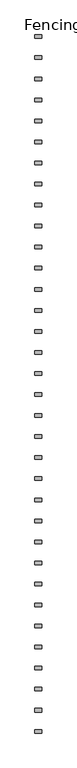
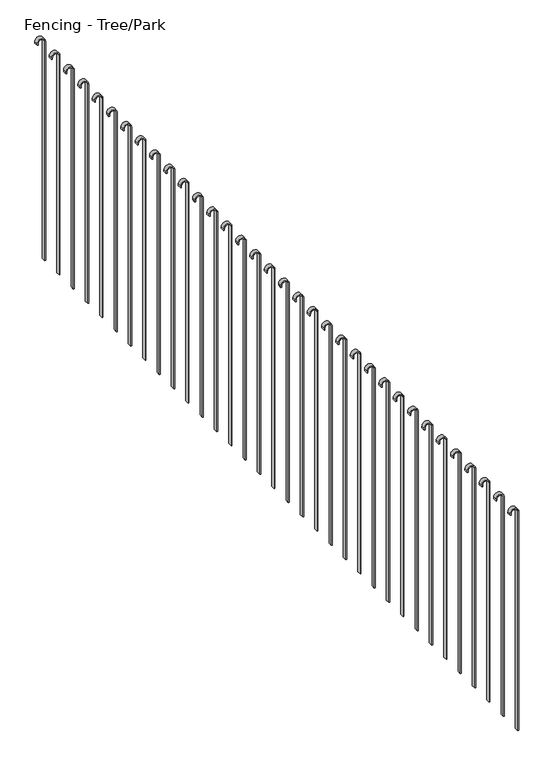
"""IFC4 building model written with IfcOpenShell, lengths in millimetres: railing geometry, Fencing - Tree/Park."""

import ifcopenshell
import ifcopenshell.guid

model = None  # the IFC model being written
_history = None  # IfcOwnerHistory: only IFC2X3 demands one
_inside = {}  # id of a spatial element -> (the spatial element, [elements in it])
_under = {}  # id of a project, library or spatial element -> (it, [spatial elements below it])
_declared = {}  # id of a project -> (the project, [libraries it declares])
_typed = {}  # id of a type object -> (the type object, [elements of that type])
_made_of = {}  # id of a material, layer set ... -> (it, [elements and type objects made of it])


def new_model(schema):
    """Start an empty IFC model of exactly this schema.

    Asked for "IFC4X3", IfcOpenShell would pick the latest addendum, in which some entities
    have other attributes; the version numbers below select the first issue.
    IFC2X3 requires an IfcOwnerHistory on every rooted entity: one is made here for all.
    """
    global model, _history
    if schema == "IFC4X3":
        model = ifcopenshell.file(schema_version=(4, 3, 0, 0))
    else:
        model = ifcopenshell.file(schema=schema)
    _inside.clear()
    _under.clear()
    _declared.clear()
    _typed.clear()
    _made_of.clear()
    _history = None
    if model.schema == "IFC2X3":
        org = make("IfcOrganization", Name="unknown")
        user = make(
            "IfcPersonAndOrganization",
            ThePerson=make("IfcPerson", FamilyName="unknown"),
            TheOrganization=org,
        )
        app = make(
            "IfcApplication",
            ApplicationDeveloper=org,
            Version="unknown",
            ApplicationFullName="unknown",
            ApplicationIdentifier="unknown",
        )
        _history = make(
            "IfcOwnerHistory",
            OwningUser=user,
            OwningApplication=app,
            ChangeAction="ADDED",
            CreationDate=0,
        )
    return model


def make(cls, **values):
    """One entity of the class cls with the attributes given. An attribute that is None is left unset."""
    return model.create_entity(
        cls, **{name: value for name, value in values.items() if value is not None}
    )


def rooted(cls, **values):
    """An entity with a GlobalId (a new one), such as an element, a storey or a relation."""
    return make(cls, GlobalId=ifcopenshell.guid.new(), OwnerHistory=_history, **values)


def si_unit(unit_type, name, prefix=None):
    """IfcSIUnit, for example si_unit("LENGTHUNIT", "METRE", prefix="MILLI")."""
    return make("IfcSIUnit", UnitType=unit_type, Prefix=prefix, Name=name)


def assignment(units):
    """IfcUnitAssignment: the units of a project."""
    return None if units is None else make("IfcUnitAssignment", Units=units)


def point(xyz):
    """IfcCartesianPoint."""
    return None if xyz is None else make("IfcCartesianPoint", Coordinates=xyz)


def direction(xyz):
    """IfcDirection."""
    return None if xyz is None else make("IfcDirection", DirectionRatios=xyz)


def frame(location, z_axis=None, x_axis=None):
    """IfcAxis2Placement3D, a coordinate frame: its origin and axes. An axis left out is left unset."""
    return make(
        "IfcAxis2Placement3D",
        Location=point(location),
        Axis=direction(z_axis),
        RefDirection=direction(x_axis),
    )


def frame_2d(location, x_axis=None):
    """IfcAxis2Placement2D, a coordinate frame in the plane: its origin and x axis."""
    return make(
        "IfcAxis2Placement2D", Location=point(location), RefDirection=direction(x_axis)
    )


def origin():
    """The frame at (0, 0, 0) with its axes left unset."""
    return frame((0.0, 0.0, 0.0))


def place(relative_to, where):
    """IfcLocalPlacement: puts the frame where relative to a parent placement (None: the world)."""
    return make(
        "IfcLocalPlacement", PlacementRelTo=relative_to, RelativePlacement=where
    )


def context(
    kind, dimensions, precision=None, world=None, true_north=None, identifier=None
):
    """IfcGeometricRepresentationContext, for example the 3D "Model" context."""
    return make(
        "IfcGeometricRepresentationContext",
        ContextIdentifier=identifier,
        ContextType=kind,
        CoordinateSpaceDimension=dimensions,
        Precision=precision,
        WorldCoordinateSystem=world,
        TrueNorth=true_north,
    )


def project(units=None, contexts=None):
    """IfcProject with its units and contexts."""
    return rooted(
        "IfcProject",
        Name="project",
        RepresentationContexts=contexts,
        UnitsInContext=assignment(units),
    )


def spatial(cls, under=None, at=None, **own):
    """A site, building, storey or space (cls), placed at a placement, below another one or the project."""
    s = rooted(cls, ObjectPlacement=at, **own)
    if under is not None:
        _under.setdefault(under.id(), (under, []))[1].append(s)
    return s


def polyline(points):
    """IfcPolyline through the points."""
    return make("IfcPolyline", Points=[point(p) for p in points])


def circle_curve(where, radius):
    """IfcCircle in the frame where."""
    return make("IfcCircle", Position=where, Radius=radius)


def trimmed(basis, trim1, trim2, sense, master):
    """IfcTrimmedCurve: the piece of a basis curve between two trims."""
    return make(
        "IfcTrimmedCurve",
        BasisCurve=basis,
        Trim1=trim1,
        Trim2=trim2,
        SenseAgreement=sense,
        MasterRepresentation=master,
    )


def segment(curve, same_sense, transition):
    """IfcCompositeCurveSegment."""
    return make(
        "IfcCompositeCurveSegment",
        Transition=transition,
        SameSense=same_sense,
        ParentCurve=curve,
    )


def composite_curve(segments, self_intersect=None):
    """IfcCompositeCurve: segments joined end to end."""
    return make("IfcCompositeCurve", Segments=segments, SelfIntersect=self_intersect)


def outline(outer, holes=None, kind="AREA"):
    """IfcArbitraryClosedProfileDef: a profile drawn as a closed curve; with holes, ...WithVoids."""
    if holes is None:
        return make("IfcArbitraryClosedProfileDef", ProfileType=kind, OuterCurve=outer)
    return make(
        "IfcArbitraryProfileDefWithVoids",
        ProfileType=kind,
        OuterCurve=outer,
        InnerCurves=holes,
    )


def extrude(swept, where, along, depth):
    """IfcExtrudedAreaSolid: the profile swept, set in the frame where, extruded along a direction by depth."""
    return make(
        "IfcExtrudedAreaSolid",
        SweptArea=swept,
        Position=where,
        ExtrudedDirection=direction(along),
        Depth=depth,
    )


def shape(context_of_items, identifier, shape_type, items):
    """IfcShapeRepresentation: the items that make up one representation, for example the "Body"."""
    return make(
        "IfcShapeRepresentation",
        ContextOfItems=context_of_items,
        RepresentationIdentifier=identifier,
        RepresentationType=shape_type,
        Items=items,
    )


def source(mapping_origin, context_of_items, identifier, shape_type, items):
    """IfcRepresentationMap: a shape defined once, which mapped items show again and again."""
    return make(
        "IfcRepresentationMap",
        MappingOrigin=mapping_origin,
        MappedRepresentation=shape(context_of_items, identifier, shape_type, items),
    )


def transform(
    local_origin,
    x_axis=None,
    y_axis=None,
    z_axis=None,
    scale=None,
    scale2=None,
    scale3=None,
    uniform=True,
):
    """IfcCartesianTransformationOperator3D, or its non-uniform kind. x_axis, y_axis, z_axis: its Axis1, 2, 3."""
    if uniform:
        return make(
            "IfcCartesianTransformationOperator3D",
            Axis1=direction(x_axis),
            Axis2=direction(y_axis),
            LocalOrigin=point(local_origin),
            Scale=scale,
            Axis3=direction(z_axis),
        )
    return make(
        "IfcCartesianTransformationOperator3DnonUniform",
        Axis1=direction(x_axis),
        Axis2=direction(y_axis),
        LocalOrigin=point(local_origin),
        Scale=scale,
        Axis3=direction(z_axis),
        Scale2=scale2,
        Scale3=scale3,
    )


def mapped(mapping_source, mapping_target):
    """IfcMappedItem: shows the shape of a source again, moved by a transform."""
    return make(
        "IfcMappedItem", MappingSource=mapping_source, MappingTarget=mapping_target
    )


def made_of(thing, what):
    """Note that an element or type object is made of a material, layer set ...; save() writes the relation."""
    if what is not None:
        _made_of.setdefault(what.id(), (what, []))[1].append(thing)
    return thing


def element(
    cls,
    number,
    at=None,
    inside=None,
    cuts=None,
    type_object=None,
    material=None,
    context=None,
    identifier="Body",
    shape_type=None,
    held_by="IfcProductDefinitionShape",
    body=None,
    shapes=None,
    **own,
):
    """One element of the class cls, such as IfcWall. Its Tag is "e" and its number.

    at: its placement. inside: the storey or other place that contains it. cuts: it is an
    opening in that element (IfcRelVoidsElement). A single representation is given by context,
    identifier, shape_type and body (its items); several are given by shapes. held_by: the class
    of the entity that holds the representations. save() writes the other relations.
    """
    e = rooted(cls, Tag="e%d" % number, ObjectPlacement=at, **own)
    if body is not None:
        shapes = [shape(context, identifier, shape_type, body)]
    if shapes is not None:
        e.Representation = make(held_by, Representations=shapes)
    if inside is not None:
        _inside.setdefault(inside.id(), (inside, []))[1].append(e)
    if cuts is not None:
        rooted(
            "IfcRelVoidsElement", RelatingBuildingElement=cuts, RelatedOpeningElement=e
        )
    if type_object is not None:
        _typed.setdefault(type_object.id(), (type_object, []))[1].append(e)
    return made_of(e, material)


def aggregate(whole, parts):
    """IfcRelAggregates: a whole, such as a stair, and the parts it consists of."""
    return rooted("IfcRelAggregates", RelatingObject=whole, RelatedObjects=parts)


def save(model, path):
    """Write the relations noted so far, then the file.

    IfcRelAggregates (storeys below a building ...), IfcRelContainedInSpatialStructure (elements
    in a storey), IfcRelDefinesByType, IfcRelAssociatesMaterial and IfcRelDeclares: one each for
    every whole, place, type object, material and project.
    """
    for whole, parts in _under.values():
        aggregate(whole, parts)
    for where, things in _inside.values():
        rooted(
            "IfcRelContainedInSpatialStructure",
            RelatedElements=things,
            RelatingStructure=where,
        )
    for kind, things in _typed.values():
        rooted("IfcRelDefinesByType", RelatedObjects=things, RelatingType=kind)
    for what, things in _made_of.values():
        rooted("IfcRelAssociatesMaterial", RelatedObjects=things, RelatingMaterial=what)
    for by, libraries in _declared.values():
        rooted("IfcRelDeclares", RelatingContext=by, RelatedDefinitions=libraries)
    model.write(path)


def fencing_tree_park_f3490889(model_context):
    return source(origin(), model_context, "Body", "SweptSolid", [
        extrude(outline(composite_curve([segment(trimmed(circle_curve(frame_2d((1450.0, 42775.9324334)), 25.0), [point((1450.0, 42800.9324334))], [point((1450.0, 42750.9324334))], False, "CARTESIAN"), True, "CONTINUOUS"), segment(polyline([(1450.0, 42750.9324334), (1440.0, 42750.9324334), (1440.0, 42755.9324334), (1450.0, 42755.9324334)]), True, "CONTINUOUS"), segment(trimmed(circle_curve(frame_2d((1450.0, 42775.9324334)), 20.0), [point((1450.0, 42755.9324334))], [point((1450.0, 42795.9324334))], True, "CARTESIAN"), True, "CONTINUOUS"), segment(polyline([(1450.0, 42795.9324334), (50.0, 42795.9324334), (50.0, 42800.9324334), (1450.0, 42800.9324334)]), True, "CONTINUOUS")], self_intersect=False)), frame((0.0, -51416.5868221, 0.0), z_axis=(0.0, 1.0, 0.0), x_axis=(0.0, 0.0, 1.0)), (0.0, 0.0, 1.0), 25.0),
        extrude(outline(composite_curve([segment(trimmed(circle_curve(frame_2d((1450.0, 42775.9324334)), 25.0), [point((1450.0, 42800.9324334))], [point((1450.0, 42750.9324334))], False, "CARTESIAN"), True, "CONTINUOUS"), segment(polyline([(1450.0, 42750.9324334), (1440.0, 42750.9324334), (1440.0, 42755.9324334), (1450.0, 42755.9324334)]), True, "CONTINUOUS"), segment(trimmed(circle_curve(frame_2d((1450.0, 42775.9324334)), 20.0), [point((1450.0, 42755.9324334))], [point((1450.0, 42795.9324334))], True, "CARTESIAN"), True, "CONTINUOUS"), segment(polyline([(1450.0, 42795.9324334), (50.0, 42795.9324334), (50.0, 42800.9324334), (1450.0, 42800.9324334)]), True, "CONTINUOUS")], self_intersect=False)), frame((0.0, -51566.5868221, 0.0), z_axis=(0.0, 1.0, 0.0), x_axis=(0.0, 0.0, 1.0)), (0.0, 0.0, 1.0), 25.0),
        extrude(outline(composite_curve([segment(trimmed(circle_curve(frame_2d((1450.0, 42775.9324334)), 25.0), [point((1450.0, 42800.9324334))], [point((1450.0, 42750.9324334))], False, "CARTESIAN"), True, "CONTINUOUS"), segment(polyline([(1450.0, 42750.9324334), (1440.0, 42750.9324334), (1440.0, 42755.9324334), (1450.0, 42755.9324334)]), True, "CONTINUOUS"), segment(trimmed(circle_curve(frame_2d((1450.0, 42775.9324334)), 20.0), [point((1450.0, 42755.9324334))], [point((1450.0, 42795.9324334))], True, "CARTESIAN"), True, "CONTINUOUS"), segment(polyline([(1450.0, 42795.9324334), (50.0, 42795.9324334), (50.0, 42800.9324334), (1450.0, 42800.9324334)]), True, "CONTINUOUS")], self_intersect=False)), frame((0.0, -51716.5868221, 0.0), z_axis=(0.0, 1.0, 0.0), x_axis=(0.0, 0.0, 1.0)), (0.0, 0.0, 1.0), 25.0),
        extrude(outline(composite_curve([segment(trimmed(circle_curve(frame_2d((1450.0, 42775.9324334)), 25.0), [point((1450.0, 42800.9324334))], [point((1450.0, 42750.9324334))], False, "CARTESIAN"), True, "CONTINUOUS"), segment(polyline([(1450.0, 42750.9324334), (1440.0, 42750.9324334), (1440.0, 42755.9324334), (1450.0, 42755.9324334)]), True, "CONTINUOUS"), segment(trimmed(circle_curve(frame_2d((1450.0, 42775.9324334)), 20.0), [point((1450.0, 42755.9324334))], [point((1450.0, 42795.9324334))], True, "CARTESIAN"), True, "CONTINUOUS"), segment(polyline([(1450.0, 42795.9324334), (50.0, 42795.9324334), (50.0, 42800.9324334), (1450.0, 42800.9324334)]), True, "CONTINUOUS")], self_intersect=False)), frame((0.0, -51866.5868221, 0.0), z_axis=(0.0, 1.0, 0.0), x_axis=(0.0, 0.0, 1.0)), (0.0, 0.0, 1.0), 25.0),
        extrude(outline(composite_curve([segment(trimmed(circle_curve(frame_2d((1450.0, 42775.9324334)), 25.0), [point((1450.0, 42800.9324334))], [point((1450.0, 42750.9324334))], False, "CARTESIAN"), True, "CONTINUOUS"), segment(polyline([(1450.0, 42750.9324334), (1440.0, 42750.9324334), (1440.0, 42755.9324334), (1450.0, 42755.9324334)]), True, "CONTINUOUS"), segment(trimmed(circle_curve(frame_2d((1450.0, 42775.9324334)), 20.0), [point((1450.0, 42755.9324334))], [point((1450.0, 42795.9324334))], True, "CARTESIAN"), True, "CONTINUOUS"), segment(polyline([(1450.0, 42795.9324334), (50.0, 42795.9324334), (50.0, 42800.9324334), (1450.0, 42800.9324334)]), True, "CONTINUOUS")], self_intersect=False)), frame((0.0, -52016.5868221, 0.0), z_axis=(0.0, 1.0, 0.0), x_axis=(0.0, 0.0, 1.0)), (0.0, 0.0, 1.0), 25.0),
        extrude(outline(composite_curve([segment(trimmed(circle_curve(frame_2d((1450.0, 42775.9324334)), 25.0), [point((1450.0, 42800.9324334))], [point((1450.0, 42750.9324334))], False, "CARTESIAN"), True, "CONTINUOUS"), segment(polyline([(1450.0, 42750.9324334), (1440.0, 42750.9324334), (1440.0, 42755.9324334), (1450.0, 42755.9324334)]), True, "CONTINUOUS"), segment(trimmed(circle_curve(frame_2d((1450.0, 42775.9324334)), 20.0), [point((1450.0, 42755.9324334))], [point((1450.0, 42795.9324334))], True, "CARTESIAN"), True, "CONTINUOUS"), segment(polyline([(1450.0, 42795.9324334), (50.0, 42795.9324334), (50.0, 42800.9324334), (1450.0, 42800.9324334)]), True, "CONTINUOUS")], self_intersect=False)), frame((0.0, -52166.5868221, 0.0), z_axis=(0.0, 1.0, 0.0), x_axis=(0.0, 0.0, 1.0)), (0.0, 0.0, 1.0), 25.0),
        extrude(outline(composite_curve([segment(trimmed(circle_curve(frame_2d((1450.0, 42775.9324334)), 25.0), [point((1450.0, 42800.9324334))], [point((1450.0, 42750.9324334))], False, "CARTESIAN"), True, "CONTINUOUS"), segment(polyline([(1450.0, 42750.9324334), (1440.0, 42750.9324334), (1440.0, 42755.9324334), (1450.0, 42755.9324334)]), True, "CONTINUOUS"), segment(trimmed(circle_curve(frame_2d((1450.0, 42775.9324334)), 20.0), [point((1450.0, 42755.9324334))], [point((1450.0, 42795.9324334))], True, "CARTESIAN"), True, "CONTINUOUS"), segment(polyline([(1450.0, 42795.9324334), (50.0, 42795.9324334), (50.0, 42800.9324334), (1450.0, 42800.9324334)]), True, "CONTINUOUS")], self_intersect=False)), frame((0.0, -52316.5868221, 0.0), z_axis=(0.0, 1.0, 0.0), x_axis=(0.0, 0.0, 1.0)), (0.0, 0.0, 1.0), 25.0),
        extrude(outline(composite_curve([segment(trimmed(circle_curve(frame_2d((1450.0, 42775.9324334)), 25.0), [point((1450.0, 42800.9324334))], [point((1450.0, 42750.9324334))], False, "CARTESIAN"), True, "CONTINUOUS"), segment(polyline([(1450.0, 42750.9324334), (1440.0, 42750.9324334), (1440.0, 42755.9324334), (1450.0, 42755.9324334)]), True, "CONTINUOUS"), segment(trimmed(circle_curve(frame_2d((1450.0, 42775.9324334)), 20.0), [point((1450.0, 42755.9324334))], [point((1450.0, 42795.9324334))], True, "CARTESIAN"), True, "CONTINUOUS"), segment(polyline([(1450.0, 42795.9324334), (50.0, 42795.9324334), (50.0, 42800.9324334), (1450.0, 42800.9324334)]), True, "CONTINUOUS")], self_intersect=False)), frame((0.0, -52466.5868221, 0.0), z_axis=(0.0, 1.0, 0.0), x_axis=(0.0, 0.0, 1.0)), (0.0, 0.0, 1.0), 25.0),
        extrude(outline(composite_curve([segment(trimmed(circle_curve(frame_2d((1450.0, 42775.9324334)), 25.0), [point((1450.0, 42800.9324334))], [point((1450.0, 42750.9324334))], False, "CARTESIAN"), True, "CONTINUOUS"), segment(polyline([(1450.0, 42750.9324334), (1440.0, 42750.9324334), (1440.0, 42755.9324334), (1450.0, 42755.9324334)]), True, "CONTINUOUS"), segment(trimmed(circle_curve(frame_2d((1450.0, 42775.9324334)), 20.0), [point((1450.0, 42755.9324334))], [point((1450.0, 42795.9324334))], True, "CARTESIAN"), True, "CONTINUOUS"), segment(polyline([(1450.0, 42795.9324334), (50.0, 42795.9324334), (50.0, 42800.9324334), (1450.0, 42800.9324334)]), True, "CONTINUOUS")], self_intersect=False)), frame((0.0, -52616.5868221, 0.0), z_axis=(0.0, 1.0, 0.0), x_axis=(0.0, 0.0, 1.0)), (0.0, 0.0, 1.0), 25.0),
        extrude(outline(composite_curve([segment(trimmed(circle_curve(frame_2d((1450.0, 42775.9324334)), 25.0), [point((1450.0, 42800.9324334))], [point((1450.0, 42750.9324334))], False, "CARTESIAN"), True, "CONTINUOUS"), segment(polyline([(1450.0, 42750.9324334), (1440.0, 42750.9324334), (1440.0, 42755.9324334), (1450.0, 42755.9324334)]), True, "CONTINUOUS"), segment(trimmed(circle_curve(frame_2d((1450.0, 42775.9324334)), 20.0), [point((1450.0, 42755.9324334))], [point((1450.0, 42795.9324334))], True, "CARTESIAN"), True, "CONTINUOUS"), segment(polyline([(1450.0, 42795.9324334), (50.0, 42795.9324334), (50.0, 42800.9324334), (1450.0, 42800.9324334)]), True, "CONTINUOUS")], self_intersect=False)), frame((0.0, -52766.5868221, 0.0), z_axis=(0.0, 1.0, 0.0), x_axis=(0.0, 0.0, 1.0)), (0.0, 0.0, 1.0), 25.0),
        extrude(outline(composite_curve([segment(trimmed(circle_curve(frame_2d((1450.0, 42775.9324334)), 25.0), [point((1450.0, 42800.9324334))], [point((1450.0, 42750.9324334))], False, "CARTESIAN"), True, "CONTINUOUS"), segment(polyline([(1450.0, 42750.9324334), (1440.0, 42750.9324334), (1440.0, 42755.9324334), (1450.0, 42755.9324334)]), True, "CONTINUOUS"), segment(trimmed(circle_curve(frame_2d((1450.0, 42775.9324334)), 20.0), [point((1450.0, 42755.9324334))], [point((1450.0, 42795.9324334))], True, "CARTESIAN"), True, "CONTINUOUS"), segment(polyline([(1450.0, 42795.9324334), (50.0, 42795.9324334), (50.0, 42800.9324334), (1450.0, 42800.9324334)]), True, "CONTINUOUS")], self_intersect=False)), frame((0.0, -52916.5868221, 0.0), z_axis=(0.0, 1.0, 0.0), x_axis=(0.0, 0.0, 1.0)), (0.0, 0.0, 1.0), 25.0),
        extrude(outline(composite_curve([segment(trimmed(circle_curve(frame_2d((1450.0, 42775.9324334)), 25.0), [point((1450.0, 42800.9324334))], [point((1450.0, 42750.9324334))], False, "CARTESIAN"), True, "CONTINUOUS"), segment(polyline([(1450.0, 42750.9324334), (1440.0, 42750.9324334), (1440.0, 42755.9324334), (1450.0, 42755.9324334)]), True, "CONTINUOUS"), segment(trimmed(circle_curve(frame_2d((1450.0, 42775.9324334)), 20.0), [point((1450.0, 42755.9324334))], [point((1450.0, 42795.9324334))], True, "CARTESIAN"), True, "CONTINUOUS"), segment(polyline([(1450.0, 42795.9324334), (50.0, 42795.9324334), (50.0, 42800.9324334), (1450.0, 42800.9324334)]), True, "CONTINUOUS")], self_intersect=False)), frame((0.0, -53066.5868221, 0.0), z_axis=(0.0, 1.0, 0.0), x_axis=(0.0, 0.0, 1.0)), (0.0, 0.0, 1.0), 25.0),
        extrude(outline(composite_curve([segment(trimmed(circle_curve(frame_2d((1450.0, 42775.9324334)), 25.0), [point((1450.0, 42800.9324334))], [point((1450.0, 42750.9324334))], False, "CARTESIAN"), True, "CONTINUOUS"), segment(polyline([(1450.0, 42750.9324334), (1440.0, 42750.9324334), (1440.0, 42755.9324334), (1450.0, 42755.9324334)]), True, "CONTINUOUS"), segment(trimmed(circle_curve(frame_2d((1450.0, 42775.9324334)), 20.0), [point((1450.0, 42755.9324334))], [point((1450.0, 42795.9324334))], True, "CARTESIAN"), True, "CONTINUOUS"), segment(polyline([(1450.0, 42795.9324334), (50.0, 42795.9324334), (50.0, 42800.9324334), (1450.0, 42800.9324334)]), True, "CONTINUOUS")], self_intersect=False)), frame((0.0, -53216.5868221, 0.0), z_axis=(0.0, 1.0, 0.0), x_axis=(0.0, 0.0, 1.0)), (0.0, 0.0, 1.0), 25.0),
        extrude(outline(composite_curve([segment(trimmed(circle_curve(frame_2d((1450.0, 42775.9324334)), 25.0), [point((1450.0, 42800.9324334))], [point((1450.0, 42750.9324334))], False, "CARTESIAN"), True, "CONTINUOUS"), segment(polyline([(1450.0, 42750.9324334), (1440.0, 42750.9324334), (1440.0, 42755.9324334), (1450.0, 42755.9324334)]), True, "CONTINUOUS"), segment(trimmed(circle_curve(frame_2d((1450.0, 42775.9324334)), 20.0), [point((1450.0, 42755.9324334))], [point((1450.0, 42795.9324334))], True, "CARTESIAN"), True, "CONTINUOUS"), segment(polyline([(1450.0, 42795.9324334), (50.0, 42795.9324334), (50.0, 42800.9324334), (1450.0, 42800.9324334)]), True, "CONTINUOUS")], self_intersect=False)), frame((0.0, -53366.5868221, 0.0), z_axis=(0.0, 1.0, 0.0), x_axis=(0.0, 0.0, 1.0)), (0.0, 0.0, 1.0), 25.0),
        extrude(outline(composite_curve([segment(trimmed(circle_curve(frame_2d((1450.0, 42775.9324334)), 25.0), [point((1450.0, 42800.9324334))], [point((1450.0, 42750.9324334))], False, "CARTESIAN"), True, "CONTINUOUS"), segment(polyline([(1450.0, 42750.9324334), (1440.0, 42750.9324334), (1440.0, 42755.9324334), (1450.0, 42755.9324334)]), True, "CONTINUOUS"), segment(trimmed(circle_curve(frame_2d((1450.0, 42775.9324334)), 20.0), [point((1450.0, 42755.9324334))], [point((1450.0, 42795.9324334))], True, "CARTESIAN"), True, "CONTINUOUS"), segment(polyline([(1450.0, 42795.9324334), (50.0, 42795.9324334), (50.0, 42800.9324334), (1450.0, 42800.9324334)]), True, "CONTINUOUS")], self_intersect=False)), frame((0.0, -53516.5868221, 0.0), z_axis=(0.0, 1.0, 0.0), x_axis=(0.0, 0.0, 1.0)), (0.0, 0.0, 1.0), 25.0),
        extrude(outline(composite_curve([segment(trimmed(circle_curve(frame_2d((1450.0, 42775.9324334)), 25.0), [point((1450.0, 42800.9324334))], [point((1450.0, 42750.9324334))], False, "CARTESIAN"), True, "CONTINUOUS"), segment(polyline([(1450.0, 42750.9324334), (1440.0, 42750.9324334), (1440.0, 42755.9324334), (1450.0, 42755.9324334)]), True, "CONTINUOUS"), segment(trimmed(circle_curve(frame_2d((1450.0, 42775.9324334)), 20.0), [point((1450.0, 42755.9324334))], [point((1450.0, 42795.9324334))], True, "CARTESIAN"), True, "CONTINUOUS"), segment(polyline([(1450.0, 42795.9324334), (50.0, 42795.9324334), (50.0, 42800.9324334), (1450.0, 42800.9324334)]), True, "CONTINUOUS")], self_intersect=False)), frame((0.0, -53666.5868221, 0.0), z_axis=(0.0, 1.0, 0.0), x_axis=(0.0, 0.0, 1.0)), (0.0, 0.0, 1.0), 25.0),
        extrude(outline(composite_curve([segment(trimmed(circle_curve(frame_2d((1450.0, 42775.9324334)), 25.0), [point((1450.0, 42800.9324334))], [point((1450.0, 42750.9324334))], False, "CARTESIAN"), True, "CONTINUOUS"), segment(polyline([(1450.0, 42750.9324334), (1440.0, 42750.9324334), (1440.0, 42755.9324334), (1450.0, 42755.9324334)]), True, "CONTINUOUS"), segment(trimmed(circle_curve(frame_2d((1450.0, 42775.9324334)), 20.0), [point((1450.0, 42755.9324334))], [point((1450.0, 42795.9324334))], True, "CARTESIAN"), True, "CONTINUOUS"), segment(polyline([(1450.0, 42795.9324334), (50.0, 42795.9324334), (50.0, 42800.9324334), (1450.0, 42800.9324334)]), True, "CONTINUOUS")], self_intersect=False)), frame((0.0, -53816.5868221, 0.0), z_axis=(0.0, 1.0, 0.0), x_axis=(0.0, 0.0, 1.0)), (0.0, 0.0, 1.0), 25.0),
        extrude(outline(composite_curve([segment(trimmed(circle_curve(frame_2d((1450.0, 42775.9324334)), 25.0), [point((1450.0, 42800.9324334))], [point((1450.0, 42750.9324334))], False, "CARTESIAN"), True, "CONTINUOUS"), segment(polyline([(1450.0, 42750.9324334), (1440.0, 42750.9324334), (1440.0, 42755.9324334), (1450.0, 42755.9324334)]), True, "CONTINUOUS"), segment(trimmed(circle_curve(frame_2d((1450.0, 42775.9324334)), 20.0), [point((1450.0, 42755.9324334))], [point((1450.0, 42795.9324334))], True, "CARTESIAN"), True, "CONTINUOUS"), segment(polyline([(1450.0, 42795.9324334), (50.0, 42795.9324334), (50.0, 42800.9324334), (1450.0, 42800.9324334)]), True, "CONTINUOUS")], self_intersect=False)), frame((0.0, -53966.5868221, 0.0), z_axis=(0.0, 1.0, 0.0), x_axis=(0.0, 0.0, 1.0)), (0.0, 0.0, 1.0), 25.0),
        extrude(outline(composite_curve([segment(trimmed(circle_curve(frame_2d((1450.0, 42775.9324334)), 25.0), [point((1450.0, 42800.9324334))], [point((1450.0, 42750.9324334))], False, "CARTESIAN"), True, "CONTINUOUS"), segment(polyline([(1450.0, 42750.9324334), (1440.0, 42750.9324334), (1440.0, 42755.9324334), (1450.0, 42755.9324334)]), True, "CONTINUOUS"), segment(trimmed(circle_curve(frame_2d((1450.0, 42775.9324334)), 20.0), [point((1450.0, 42755.9324334))], [point((1450.0, 42795.9324334))], True, "CARTESIAN"), True, "CONTINUOUS"), segment(polyline([(1450.0, 42795.9324334), (50.0, 42795.9324334), (50.0, 42800.9324334), (1450.0, 42800.9324334)]), True, "CONTINUOUS")], self_intersect=False)), frame((0.0, -54116.5868221, 0.0), z_axis=(0.0, 1.0, 0.0), x_axis=(0.0, 0.0, 1.0)), (0.0, 0.0, 1.0), 25.0),
        extrude(outline(composite_curve([segment(trimmed(circle_curve(frame_2d((1450.0, 42775.9324334)), 25.0), [point((1450.0, 42800.9324334))], [point((1450.0, 42750.9324334))], False, "CARTESIAN"), True, "CONTINUOUS"), segment(polyline([(1450.0, 42750.9324334), (1440.0, 42750.9324334), (1440.0, 42755.9324334), (1450.0, 42755.9324334)]), True, "CONTINUOUS"), segment(trimmed(circle_curve(frame_2d((1450.0, 42775.9324334)), 20.0), [point((1450.0, 42755.9324334))], [point((1450.0, 42795.9324334))], True, "CARTESIAN"), True, "CONTINUOUS"), segment(polyline([(1450.0, 42795.9324334), (50.0, 42795.9324334), (50.0, 42800.9324334), (1450.0, 42800.9324334)]), True, "CONTINUOUS")], self_intersect=False)), frame((0.0, -54266.5868221, 0.0), z_axis=(0.0, 1.0, 0.0), x_axis=(0.0, 0.0, 1.0)), (0.0, 0.0, 1.0), 25.0),
        extrude(outline(composite_curve([segment(trimmed(circle_curve(frame_2d((1450.0, 42775.9324334)), 25.0), [point((1450.0, 42800.9324334))], [point((1450.0, 42750.9324334))], False, "CARTESIAN"), True, "CONTINUOUS"), segment(polyline([(1450.0, 42750.9324334), (1440.0, 42750.9324334), (1440.0, 42755.9324334), (1450.0, 42755.9324334)]), True, "CONTINUOUS"), segment(trimmed(circle_curve(frame_2d((1450.0, 42775.9324334)), 20.0), [point((1450.0, 42755.9324334))], [point((1450.0, 42795.9324334))], True, "CARTESIAN"), True, "CONTINUOUS"), segment(polyline([(1450.0, 42795.9324334), (50.0, 42795.9324334), (50.0, 42800.9324334), (1450.0, 42800.9324334)]), True, "CONTINUOUS")], self_intersect=False)), frame((0.0, -54416.5868221, 0.0), z_axis=(0.0, 1.0, 0.0), x_axis=(0.0, 0.0, 1.0)), (0.0, 0.0, 1.0), 25.0),
        extrude(outline(composite_curve([segment(trimmed(circle_curve(frame_2d((1450.0, 42775.9324334)), 25.0), [point((1450.0, 42800.9324334))], [point((1450.0, 42750.9324334))], False, "CARTESIAN"), True, "CONTINUOUS"), segment(polyline([(1450.0, 42750.9324334), (1440.0, 42750.9324334), (1440.0, 42755.9324334), (1450.0, 42755.9324334)]), True, "CONTINUOUS"), segment(trimmed(circle_curve(frame_2d((1450.0, 42775.9324334)), 20.0), [point((1450.0, 42755.9324334))], [point((1450.0, 42795.9324334))], True, "CARTESIAN"), True, "CONTINUOUS"), segment(polyline([(1450.0, 42795.9324334), (50.0, 42795.9324334), (50.0, 42800.9324334), (1450.0, 42800.9324334)]), True, "CONTINUOUS")], self_intersect=False)), frame((0.0, -54566.5868221, 0.0), z_axis=(0.0, 1.0, 0.0), x_axis=(0.0, 0.0, 1.0)), (0.0, 0.0, 1.0), 25.0),
        extrude(outline(composite_curve([segment(trimmed(circle_curve(frame_2d((1450.0, 42775.9324334)), 25.0), [point((1450.0, 42800.9324334))], [point((1450.0, 42750.9324334))], False, "CARTESIAN"), True, "CONTINUOUS"), segment(polyline([(1450.0, 42750.9324334), (1440.0, 42750.9324334), (1440.0, 42755.9324334), (1450.0, 42755.9324334)]), True, "CONTINUOUS"), segment(trimmed(circle_curve(frame_2d((1450.0, 42775.9324334)), 20.0), [point((1450.0, 42755.9324334))], [point((1450.0, 42795.9324334))], True, "CARTESIAN"), True, "CONTINUOUS"), segment(polyline([(1450.0, 42795.9324334), (50.0, 42795.9324334), (50.0, 42800.9324334), (1450.0, 42800.9324334)]), True, "CONTINUOUS")], self_intersect=False)), frame((0.0, -54716.5868221, 0.0), z_axis=(0.0, 1.0, 0.0), x_axis=(0.0, 0.0, 1.0)), (0.0, 0.0, 1.0), 25.0),
        extrude(outline(composite_curve([segment(trimmed(circle_curve(frame_2d((1450.0, 42775.9324334)), 25.0), [point((1450.0, 42800.9324334))], [point((1450.0, 42750.9324334))], False, "CARTESIAN"), True, "CONTINUOUS"), segment(polyline([(1450.0, 42750.9324334), (1440.0, 42750.9324334), (1440.0, 42755.9324334), (1450.0, 42755.9324334)]), True, "CONTINUOUS"), segment(trimmed(circle_curve(frame_2d((1450.0, 42775.9324334)), 20.0), [point((1450.0, 42755.9324334))], [point((1450.0, 42795.9324334))], True, "CARTESIAN"), True, "CONTINUOUS"), segment(polyline([(1450.0, 42795.9324334), (50.0, 42795.9324334), (50.0, 42800.9324334), (1450.0, 42800.9324334)]), True, "CONTINUOUS")], self_intersect=False)), frame((0.0, -54866.5868221, 0.0), z_axis=(0.0, 1.0, 0.0), x_axis=(0.0, 0.0, 1.0)), (0.0, 0.0, 1.0), 25.0),
        extrude(outline(composite_curve([segment(trimmed(circle_curve(frame_2d((1450.0, 42775.9324334)), 25.0), [point((1450.0, 42800.9324334))], [point((1450.0, 42750.9324334))], False, "CARTESIAN"), True, "CONTINUOUS"), segment(polyline([(1450.0, 42750.9324334), (1440.0, 42750.9324334), (1440.0, 42755.9324334), (1450.0, 42755.9324334)]), True, "CONTINUOUS"), segment(trimmed(circle_curve(frame_2d((1450.0, 42775.9324334)), 20.0), [point((1450.0, 42755.9324334))], [point((1450.0, 42795.9324334))], True, "CARTESIAN"), True, "CONTINUOUS"), segment(polyline([(1450.0, 42795.9324334), (50.0, 42795.9324334), (50.0, 42800.9324334), (1450.0, 42800.9324334)]), True, "CONTINUOUS")], self_intersect=False)), frame((0.0, -55016.5868221, 0.0), z_axis=(0.0, 1.0, 0.0), x_axis=(0.0, 0.0, 1.0)), (0.0, 0.0, 1.0), 25.0),
        extrude(outline(composite_curve([segment(trimmed(circle_curve(frame_2d((1450.0, 42775.9324334)), 25.0), [point((1450.0, 42800.9324334))], [point((1450.0, 42750.9324334))], False, "CARTESIAN"), True, "CONTINUOUS"), segment(polyline([(1450.0, 42750.9324334), (1440.0, 42750.9324334), (1440.0, 42755.9324334), (1450.0, 42755.9324334)]), True, "CONTINUOUS"), segment(trimmed(circle_curve(frame_2d((1450.0, 42775.9324334)), 20.0), [point((1450.0, 42755.9324334))], [point((1450.0, 42795.9324334))], True, "CARTESIAN"), True, "CONTINUOUS"), segment(polyline([(1450.0, 42795.9324334), (50.0, 42795.9324334), (50.0, 42800.9324334), (1450.0, 42800.9324334)]), True, "CONTINUOUS")], self_intersect=False)), frame((0.0, -55166.5868221, 0.0), z_axis=(0.0, 1.0, 0.0), x_axis=(0.0, 0.0, 1.0)), (0.0, 0.0, 1.0), 25.0),
        extrude(outline(composite_curve([segment(trimmed(circle_curve(frame_2d((1450.0, 42775.9324334)), 25.0), [point((1450.0, 42800.9324334))], [point((1450.0, 42750.9324334))], False, "CARTESIAN"), True, "CONTINUOUS"), segment(polyline([(1450.0, 42750.9324334), (1440.0, 42750.9324334), (1440.0, 42755.9324334), (1450.0, 42755.9324334)]), True, "CONTINUOUS"), segment(trimmed(circle_curve(frame_2d((1450.0, 42775.9324334)), 20.0), [point((1450.0, 42755.9324334))], [point((1450.0, 42795.9324334))], True, "CARTESIAN"), True, "CONTINUOUS"), segment(polyline([(1450.0, 42795.9324334), (50.0, 42795.9324334), (50.0, 42800.9324334), (1450.0, 42800.9324334)]), True, "CONTINUOUS")], self_intersect=False)), frame((0.0, -55316.5868221, 0.0), z_axis=(0.0, 1.0, 0.0), x_axis=(0.0, 0.0, 1.0)), (0.0, 0.0, 1.0), 25.0),
        extrude(outline(composite_curve([segment(trimmed(circle_curve(frame_2d((1450.0, 42775.9324334)), 25.0), [point((1450.0, 42800.9324334))], [point((1450.0, 42750.9324334))], False, "CARTESIAN"), True, "CONTINUOUS"), segment(polyline([(1450.0, 42750.9324334), (1440.0, 42750.9324334), (1440.0, 42755.9324334), (1450.0, 42755.9324334)]), True, "CONTINUOUS"), segment(trimmed(circle_curve(frame_2d((1450.0, 42775.9324334)), 20.0), [point((1450.0, 42755.9324334))], [point((1450.0, 42795.9324334))], True, "CARTESIAN"), True, "CONTINUOUS"), segment(polyline([(1450.0, 42795.9324334), (50.0, 42795.9324334), (50.0, 42800.9324334), (1450.0, 42800.9324334)]), True, "CONTINUOUS")], self_intersect=False)), frame((0.0, -55466.5868221, 0.0), z_axis=(0.0, 1.0, 0.0), x_axis=(0.0, 0.0, 1.0)), (0.0, 0.0, 1.0), 25.0),
        extrude(outline(composite_curve([segment(trimmed(circle_curve(frame_2d((1450.0, 42775.9324334)), 25.0), [point((1450.0, 42800.9324334))], [point((1450.0, 42750.9324334))], False, "CARTESIAN"), True, "CONTINUOUS"), segment(polyline([(1450.0, 42750.9324334), (1440.0, 42750.9324334), (1440.0, 42755.9324334), (1450.0, 42755.9324334)]), True, "CONTINUOUS"), segment(trimmed(circle_curve(frame_2d((1450.0, 42775.9324334)), 20.0), [point((1450.0, 42755.9324334))], [point((1450.0, 42795.9324334))], True, "CARTESIAN"), True, "CONTINUOUS"), segment(polyline([(1450.0, 42795.9324334), (50.0, 42795.9324334), (50.0, 42800.9324334), (1450.0, 42800.9324334)]), True, "CONTINUOUS")], self_intersect=False)), frame((0.0, -55616.5868221, 0.0), z_axis=(0.0, 1.0, 0.0), x_axis=(0.0, 0.0, 1.0)), (0.0, 0.0, 1.0), 25.0),
        extrude(outline(composite_curve([segment(trimmed(circle_curve(frame_2d((1450.0, 42775.9324334)), 25.0), [point((1450.0, 42800.9324334))], [point((1450.0, 42750.9324334))], False, "CARTESIAN"), True, "CONTINUOUS"), segment(polyline([(1450.0, 42750.9324334), (1440.0, 42750.9324334), (1440.0, 42755.9324334), (1450.0, 42755.9324334)]), True, "CONTINUOUS"), segment(trimmed(circle_curve(frame_2d((1450.0, 42775.9324334)), 20.0), [point((1450.0, 42755.9324334))], [point((1450.0, 42795.9324334))], True, "CARTESIAN"), True, "CONTINUOUS"), segment(polyline([(1450.0, 42795.9324334), (50.0, 42795.9324334), (50.0, 42800.9324334), (1450.0, 42800.9324334)]), True, "CONTINUOUS")], self_intersect=False)), frame((0.0, -55766.5868221, 0.0), z_axis=(0.0, 1.0, 0.0), x_axis=(0.0, 0.0, 1.0)), (0.0, 0.0, 1.0), 25.0),
        extrude(outline(composite_curve([segment(trimmed(circle_curve(frame_2d((1450.0, 42775.9324334)), 25.0), [point((1450.0, 42800.9324334))], [point((1450.0, 42750.9324334))], False, "CARTESIAN"), True, "CONTINUOUS"), segment(polyline([(1450.0, 42750.9324334), (1440.0, 42750.9324334), (1440.0, 42755.9324334), (1450.0, 42755.9324334)]), True, "CONTINUOUS"), segment(trimmed(circle_curve(frame_2d((1450.0, 42775.9324334)), 20.0), [point((1450.0, 42755.9324334))], [point((1450.0, 42795.9324334))], True, "CARTESIAN"), True, "CONTINUOUS"), segment(polyline([(1450.0, 42795.9324334), (50.0, 42795.9324334), (50.0, 42800.9324334), (1450.0, 42800.9324334)]), True, "CONTINUOUS")], self_intersect=False)), frame((0.0, -55916.5868221, 0.0), z_axis=(0.0, 1.0, 0.0), x_axis=(0.0, 0.0, 1.0)), (0.0, 0.0, 1.0), 25.0),
        extrude(outline(composite_curve([segment(trimmed(circle_curve(frame_2d((1450.0, 42775.9324334)), 25.0), [point((1450.0, 42800.9324334))], [point((1450.0, 42750.9324334))], False, "CARTESIAN"), True, "CONTINUOUS"), segment(polyline([(1450.0, 42750.9324334), (1440.0, 42750.9324334), (1440.0, 42755.9324334), (1450.0, 42755.9324334)]), True, "CONTINUOUS"), segment(trimmed(circle_curve(frame_2d((1450.0, 42775.9324334)), 20.0), [point((1450.0, 42755.9324334))], [point((1450.0, 42795.9324334))], True, "CARTESIAN"), True, "CONTINUOUS"), segment(polyline([(1450.0, 42795.9324334), (50.0, 42795.9324334), (50.0, 42800.9324334), (1450.0, 42800.9324334)]), True, "CONTINUOUS")], self_intersect=False)), frame((0.0, -56066.5868221, 0.0), z_axis=(0.0, 1.0, 0.0), x_axis=(0.0, 0.0, 1.0)), (0.0, 0.0, 1.0), 25.0),
        extrude(outline(composite_curve([segment(trimmed(circle_curve(frame_2d((1450.0, 42775.9324334)), 25.0), [point((1450.0, 42800.9324334))], [point((1450.0, 42750.9324334))], False, "CARTESIAN"), True, "CONTINUOUS"), segment(polyline([(1450.0, 42750.9324334), (1440.0, 42750.9324334), (1440.0, 42755.9324334), (1450.0, 42755.9324334)]), True, "CONTINUOUS"), segment(trimmed(circle_curve(frame_2d((1450.0, 42775.9324334)), 20.0), [point((1450.0, 42755.9324334))], [point((1450.0, 42795.9324334))], True, "CARTESIAN"), True, "CONTINUOUS"), segment(polyline([(1450.0, 42795.9324334), (50.0, 42795.9324334), (50.0, 42800.9324334), (1450.0, 42800.9324334)]), True, "CONTINUOUS")], self_intersect=False)), frame((0.0, -56216.5868221, 0.0), z_axis=(0.0, 1.0, 0.0), x_axis=(0.0, 0.0, 1.0)), (0.0, 0.0, 1.0), 25.0),
        extrude(outline(composite_curve([segment(trimmed(circle_curve(frame_2d((1450.0, 42775.9324334)), 25.0), [point((1450.0, 42800.9324334))], [point((1450.0, 42750.9324334))], False, "CARTESIAN"), True, "CONTINUOUS"), segment(polyline([(1450.0, 42750.9324334), (1440.0, 42750.9324334), (1440.0, 42755.9324334), (1450.0, 42755.9324334)]), True, "CONTINUOUS"), segment(trimmed(circle_curve(frame_2d((1450.0, 42775.9324334)), 20.0), [point((1450.0, 42755.9324334))], [point((1450.0, 42795.9324334))], True, "CARTESIAN"), True, "CONTINUOUS"), segment(polyline([(1450.0, 42795.9324334), (50.0, 42795.9324334), (50.0, 42800.9324334), (1450.0, 42800.9324334)]), True, "CONTINUOUS")], self_intersect=False)), frame((0.0, -56366.5868221, 0.0), z_axis=(0.0, 1.0, 0.0), x_axis=(0.0, 0.0, 1.0)), (0.0, 0.0, 1.0), 25.0),
    ])


if __name__ == "__main__":
    model = new_model("IFC4")
    model_context = context("Model", 3, world=origin())
    ifc_project = project(units=[si_unit("LENGTHUNIT", "METRE", prefix="MILLI")], contexts=[model_context])
    site = spatial("IfcSite", under=ifc_project)
    building = spatial("IfcBuilding", under=site)
    placement = place(None, origin())
    fencing_tree_park_shape = fencing_tree_park_f3490889(model_context)
    element("IfcRailing", 1, ObjectType="Fencing - Tree/Park", at=placement, inside=building, context=model_context, shape_type="MappedRepresentation", body=[
        mapped(fencing_tree_park_shape, transform((0.0, 0.0, 0.0), x_axis=(1.0, 0.0, 0.0), y_axis=(0.0, 1.0, 0.0), z_axis=(0.0, 0.0, 1.0))),
    ])
    save(model, "model.ifc")
